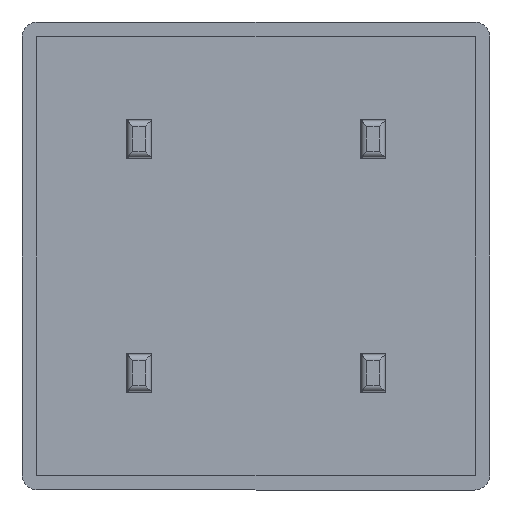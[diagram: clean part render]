
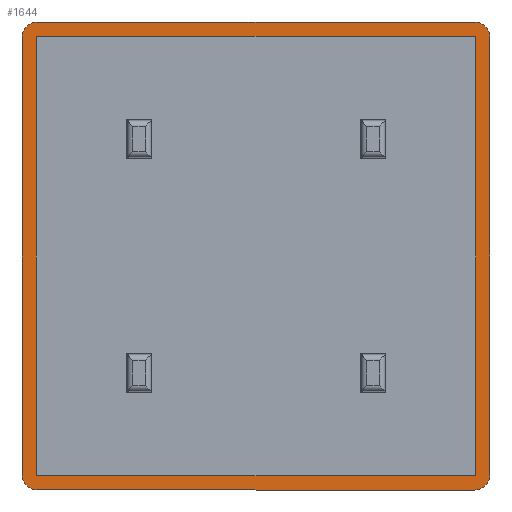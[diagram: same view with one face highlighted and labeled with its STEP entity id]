
A CAD part, front view. The second image highlights one B-rep face of the part: STEP entity #1644.
In plain terms, the highlighted planar face has unit normal (0, -1, 0).
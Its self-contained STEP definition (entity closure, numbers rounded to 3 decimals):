
#13 = VERTEX_POINT ( 'NONE', #204 ) ;
#16 = FACE_OUTER_BOUND ( 'NONE', #1400, .T. ) ;
#17 = ORIENTED_EDGE ( 'NONE', *, *, #626, .F. ) ;
#21 = CARTESIAN_POINT ( 'NONE',  ( -30., -1.5, -28. ) ) ;
#52 = DIRECTION ( 'NONE',  ( 0., -1., 0. ) ) ;
#87 = DIRECTION ( 'NONE',  ( 0., -1., 0. ) ) ;
#92 = LINE ( 'NONE', #428, #1102 ) ;
#117 = VERTEX_POINT ( 'NONE', #1441 ) ;
#123 = CIRCLE ( 'NONE', #1315, 2. ) ;
#135 = ORIENTED_EDGE ( 'NONE', *, *, #1678, .F. ) ;
#149 = CARTESIAN_POINT ( 'NONE',  ( -28., -1.5, 28.2 ) ) ;
#152 = ORIENTED_EDGE ( 'NONE', *, *, #1033, .F. ) ;
#161 = EDGE_CURVE ( 'NONE', #447, #1036, #735, .T. ) ;
#173 = CARTESIAN_POINT ( 'NONE',  ( -28.2, -1.5, 28. ) ) ;
#187 = AXIS2_PLACEMENT_3D ( 'NONE', #875, #52, #1008 ) ;
#203 = VECTOR ( 'NONE', #401, 1000. ) ;
#204 = CARTESIAN_POINT ( 'NONE',  ( 28.2, -1.5, -28. ) ) ;
#267 = CARTESIAN_POINT ( 'NONE',  ( 28., -1.5, 28. ) ) ;
#270 = VERTEX_POINT ( 'NONE', #557 ) ;
#285 = AXIS2_PLACEMENT_3D ( 'NONE', #1341, #535, #1476 ) ;
#300 = ORIENTED_EDGE ( 'NONE', *, *, #910, .F. ) ;
#305 = CARTESIAN_POINT ( 'NONE',  ( -28.2, -1.5, -28. ) ) ;
#313 = CARTESIAN_POINT ( 'NONE',  ( -28., -1.5, -28. ) ) ;
#343 = FACE_BOUND ( 'NONE', #489, .T. ) ;
#346 = CIRCLE ( 'NONE', #1457, 2. ) ;
#363 = LINE ( 'NONE', #1661, #1783 ) ;
#379 = VERTEX_POINT ( 'NONE', #1419 ) ;
#398 = DIRECTION ( 'NONE',  ( 0., 0., 1. ) ) ;
#401 = DIRECTION ( 'NONE',  ( -1., 0., 0. ) ) ;
#403 = DIRECTION ( 'NONE',  ( 1., 0., 0. ) ) ;
#412 = CIRCLE ( 'NONE', #187, 0.2 ) ;
#413 = EDGE_CURVE ( 'NONE', #1157, #13, #1560, .T. ) ;
#426 = DIRECTION ( 'NONE',  ( 0., 1., 0. ) ) ;
#428 = CARTESIAN_POINT ( 'NONE',  ( 28.2, -1.5, 28. ) ) ;
#429 = LINE ( 'NONE', #488, #1420 ) ;
#447 = VERTEX_POINT ( 'NONE', #1324 ) ;
#450 = DIRECTION ( 'NONE',  ( 0., 0., -1. ) ) ;
#451 = EDGE_CURVE ( 'NONE', #993, #1348, #807, .T. ) ;
#465 = AXIS2_PLACEMENT_3D ( 'NONE', #1565, #1294, #484 ) ;
#467 = ORIENTED_EDGE ( 'NONE', *, *, #451, .F. ) ;
#484 = DIRECTION ( 'NONE',  ( 0., 0., 1. ) ) ;
#488 = CARTESIAN_POINT ( 'NONE',  ( -28.2, -1.5, 28. ) ) ;
#489 = EDGE_LOOP ( 'NONE', ( #135, #467, #1605, #1646, #1226, #939, #152, #1160 ) ) ;
#495 = ORIENTED_EDGE ( 'NONE', *, *, #961, .F. ) ;
#535 = DIRECTION ( 'NONE',  ( 0., 1., 0. ) ) ;
#542 = CARTESIAN_POINT ( 'NONE',  ( 30., -1.5, 28. ) ) ;
#544 = ORIENTED_EDGE ( 'NONE', *, *, #161, .F. ) ;
#548 = CARTESIAN_POINT ( 'NONE',  ( 28., -1.5, -28. ) ) ;
#557 = CARTESIAN_POINT ( 'NONE',  ( -30., -1.5, 28. ) ) ;
#565 = DIRECTION ( 'NONE',  ( -1., 0., 0. ) ) ;
#575 = CARTESIAN_POINT ( 'NONE',  ( 28., -1.5, 30. ) ) ;
#597 = EDGE_CURVE ( 'NONE', #1036, #270, #1370, .T. ) ;
#606 = EDGE_CURVE ( 'NONE', #1087, #1586, #958, .T. ) ;
#616 = VECTOR ( 'NONE', #934, 1000. ) ;
#626 = EDGE_CURVE ( 'NONE', #379, #447, #1288, .T. ) ;
#667 = VECTOR ( 'NONE', #403, 1000. ) ;
#681 = DIRECTION ( 'NONE',  ( 0., 0., 1. ) ) ;
#725 = VERTEX_POINT ( 'NONE', #305 ) ;
#733 = LINE ( 'NONE', #1398, #1249 ) ;
#735 = CIRCLE ( 'NONE', #285, 2. ) ;
#753 = DIRECTION ( 'NONE',  ( 0., -1., 0. ) ) ;
#801 = ORIENTED_EDGE ( 'NONE', *, *, #1200, .F. ) ;
#807 = CIRCLE ( 'NONE', #879, 0.2 ) ;
#814 = VERTEX_POINT ( 'NONE', #1466 ) ;
#875 = CARTESIAN_POINT ( 'NONE',  ( 28., -1.5, 28. ) ) ;
#879 = AXIS2_PLACEMENT_3D ( 'NONE', #899, #87, #1035 ) ;
#899 = CARTESIAN_POINT ( 'NONE',  ( -28., -1.5, 28. ) ) ;
#905 = ORIENTED_EDGE ( 'NONE', *, *, #597, .F. ) ;
#910 = EDGE_CURVE ( 'NONE', #1586, #379, #123, .T. ) ;
#934 = DIRECTION ( 'NONE',  ( 0., 0., 1. ) ) ;
#939 = ORIENTED_EDGE ( 'NONE', *, *, #413, .F. ) ;
#958 = LINE ( 'NONE', #542, #1660 ) ;
#961 = EDGE_CURVE ( 'NONE', #270, #1513, #1133, .T. ) ;
#983 = LINE ( 'NONE', #1222, #667 ) ;
#988 = EDGE_CURVE ( 'NONE', #1738, #993, #363, .T. ) ;
#993 = VERTEX_POINT ( 'NONE', #149 ) ;
#1008 = DIRECTION ( 'NONE',  ( 0., 0., -1. ) ) ;
#1033 = EDGE_CURVE ( 'NONE', #814, #1157, #733, .T. ) ;
#1035 = DIRECTION ( 'NONE',  ( 0., 0., -1. ) ) ;
#1036 = VERTEX_POINT ( 'NONE', #21 ) ;
#1058 = CARTESIAN_POINT ( 'NONE',  ( 28., -1.5, -28.2 ) ) ;
#1087 = VERTEX_POINT ( 'NONE', #1330 ) ;
#1102 = VECTOR ( 'NONE', #1240, 1000. ) ;
#1133 = CIRCLE ( 'NONE', #1503, 2. ) ;
#1153 = PLANE ( 'NONE',  #465 ) ;
#1157 = VERTEX_POINT ( 'NONE', #1058 ) ;
#1160 = ORIENTED_EDGE ( 'NONE', *, *, #1600, .F. ) ;
#1166 = EDGE_CURVE ( 'NONE', #1293, #1087, #346, .T. ) ;
#1200 = EDGE_CURVE ( 'NONE', #1513, #1293, #983, .T. ) ;
#1210 = DIRECTION ( 'NONE',  ( 0., 1., 0. ) ) ;
#1222 = CARTESIAN_POINT ( 'NONE',  ( -28., -1.5, 30. ) ) ;
#1226 = ORIENTED_EDGE ( 'NONE', *, *, #1546, .F. ) ;
#1239 = CARTESIAN_POINT ( 'NONE',  ( -28., -1.5, 28. ) ) ;
#1240 = DIRECTION ( 'NONE',  ( 0., 0., 1. ) ) ;
#1249 = VECTOR ( 'NONE', #1680, 1000. ) ;
#1264 = DIRECTION ( 'NONE',  ( 0., -1., 0. ) ) ;
#1280 = ORIENTED_EDGE ( 'NONE', *, *, #1166, .F. ) ;
#1288 = LINE ( 'NONE', #1358, #203 ) ;
#1293 = VERTEX_POINT ( 'NONE', #575 ) ;
#1294 = DIRECTION ( 'NONE',  ( 0., 1., 0. ) ) ;
#1315 = AXIS2_PLACEMENT_3D ( 'NONE', #548, #1482, #681 ) ;
#1324 = CARTESIAN_POINT ( 'NONE',  ( -28., -1.5, -30. ) ) ;
#1330 = CARTESIAN_POINT ( 'NONE',  ( 30., -1.5, 28. ) ) ;
#1341 = CARTESIAN_POINT ( 'NONE',  ( -28., -1.5, -28. ) ) ;
#1348 = VERTEX_POINT ( 'NONE', #173 ) ;
#1358 = CARTESIAN_POINT ( 'NONE',  ( -28., -1.5, -30. ) ) ;
#1370 = LINE ( 'NONE', #1769, #616 ) ;
#1376 = DIRECTION ( 'NONE',  ( 0., 0., 1. ) ) ;
#1398 = CARTESIAN_POINT ( 'NONE',  ( -28., -1.5, -28.2 ) ) ;
#1400 = EDGE_LOOP ( 'NONE', ( #544, #17, #300, #1540, #1280, #801, #495, #905 ) ) ;
#1419 = CARTESIAN_POINT ( 'NONE',  ( 28., -1.5, -30. ) ) ;
#1420 = VECTOR ( 'NONE', #1578, 1000. ) ;
#1441 = CARTESIAN_POINT ( 'NONE',  ( 28.2, -1.5, 28. ) ) ;
#1457 = AXIS2_PLACEMENT_3D ( 'NONE', #267, #1210, #398 ) ;
#1466 = CARTESIAN_POINT ( 'NONE',  ( -28., -1.5, -28.2 ) ) ;
#1476 = DIRECTION ( 'NONE',  ( 0., 0., 1. ) ) ;
#1482 = DIRECTION ( 'NONE',  ( 0., 1., 0. ) ) ;
#1503 = AXIS2_PLACEMENT_3D ( 'NONE', #1239, #426, #1376 ) ;
#1513 = VERTEX_POINT ( 'NONE', #1794 ) ;
#1540 = ORIENTED_EDGE ( 'NONE', *, *, #606, .F. ) ;
#1546 = EDGE_CURVE ( 'NONE', #13, #117, #92, .T. ) ;
#1560 = CIRCLE ( 'NONE', #1748, 0.2 ) ;
#1565 = CARTESIAN_POINT ( 'NONE',  ( -28., -1.5, -28. ) ) ;
#1578 = DIRECTION ( 'NONE',  ( 0., 0., -1. ) ) ;
#1580 = CARTESIAN_POINT ( 'NONE',  ( 28., -1.5, -28. ) ) ;
#1586 = VERTEX_POINT ( 'NONE', #1676 ) ;
#1600 = EDGE_CURVE ( 'NONE', #725, #814, #1755, .T. ) ;
#1605 = ORIENTED_EDGE ( 'NONE', *, *, #988, .F. ) ;
#1632 = DIRECTION ( 'NONE',  ( 0., 0., -1. ) ) ;
#1635 = EDGE_CURVE ( 'NONE', #117, #1738, #412, .T. ) ;
#1644 = ADVANCED_FACE ( 'NONE', ( #343, #16 ), #1153, .F. ) ;
#1646 = ORIENTED_EDGE ( 'NONE', *, *, #1635, .F. ) ;
#1660 = VECTOR ( 'NONE', #1632, 1000. ) ;
#1661 = CARTESIAN_POINT ( 'NONE',  ( -28., -1.5, 28.2 ) ) ;
#1676 = CARTESIAN_POINT ( 'NONE',  ( 30., -1.5, -28. ) ) ;
#1678 = EDGE_CURVE ( 'NONE', #1348, #725, #429, .T. ) ;
#1680 = DIRECTION ( 'NONE',  ( 1., 0., 0. ) ) ;
#1691 = AXIS2_PLACEMENT_3D ( 'NONE', #313, #1264, #450 ) ;
#1723 = DIRECTION ( 'NONE',  ( 0., 0., -1. ) ) ;
#1730 = CARTESIAN_POINT ( 'NONE',  ( 28., -1.5, 28.2 ) ) ;
#1738 = VERTEX_POINT ( 'NONE', #1730 ) ;
#1748 = AXIS2_PLACEMENT_3D ( 'NONE', #1580, #753, #1723 ) ;
#1755 = CIRCLE ( 'NONE', #1691, 0.2 ) ;
#1769 = CARTESIAN_POINT ( 'NONE',  ( -30., -1.5, 28. ) ) ;
#1783 = VECTOR ( 'NONE', #565, 1000. ) ;
#1794 = CARTESIAN_POINT ( 'NONE',  ( -28., -1.5, 30. ) ) ;
